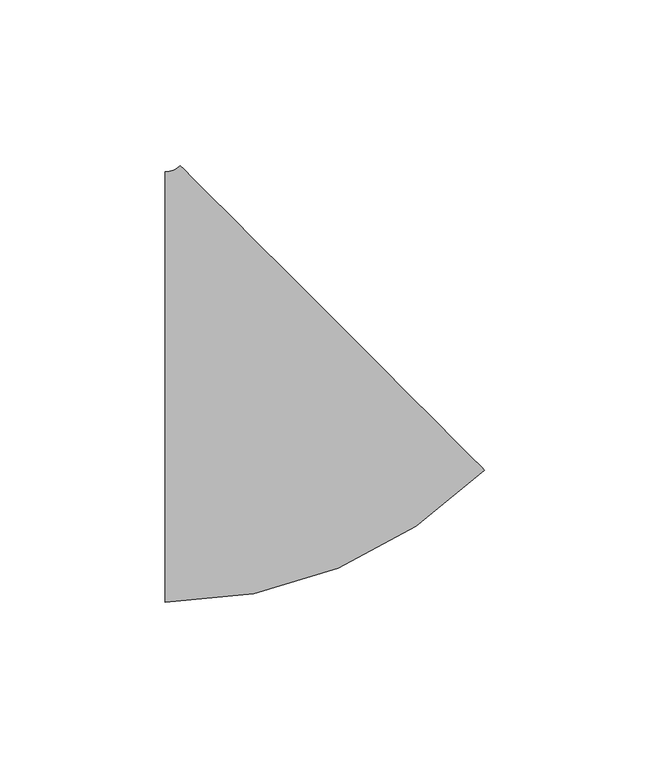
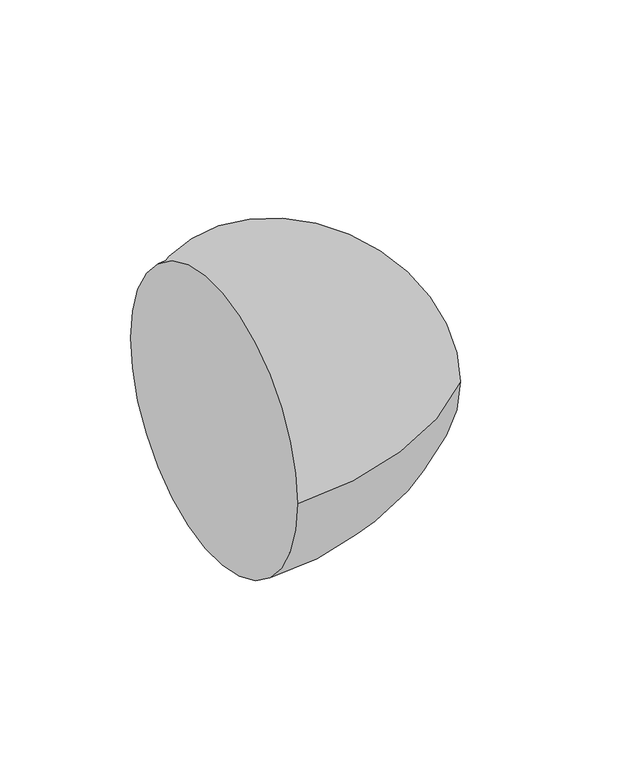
"""IFC4 building model written with IfcOpenShell, lengths in millimetres: pipe fitting geometry, M_Codo - Genérico : Estándar."""

from ifc_helpers import new_model, si_unit, point, frame, origin, place, context, project, spatial, circle_curve, ellipse_curve, trimmed, source, transform, mapped, element, save
from ifc_brep_helpers import plane_surface, revolved_surface, advanced_brep


def pipe_fitting_45596edf(model_context):
    return source(origin(), model_context, "Body", "AdvancedBrep", [
        advanced_brep(
        [(-29.5812327, -65.0875, 0.0), (-29.5812327, 65.0875, 0.0), (66.9354122, -25.121357, 0.0), (-25.0920865, 66.9463904, 0.0)],
        [
            (0, 1, circle_curve(frame((-29.5812327, 0.0, 0.0), z_axis=(-1.0, 0.0, 0.0), x_axis=(0.0, 1.0, 0.0)), 65.0875)),
            (1, 0, circle_curve(frame((-29.5812327, 0.0, 0.0), z_axis=(-1.0, 0.0, 0.0), x_axis=(0.0, 1.0, 0.0)), 65.0875)),
            (2, 3, circle_curve(frame((20.9216629, 20.9125167, 0.0), z_axis=(0.7072613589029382, 0.7069521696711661, 0.0), x_axis=(-0.7069521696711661, 0.7072613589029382, 0.0)), 65.0875)),
            (3, 2, circle_curve(frame((20.9216629, 20.9125167, 0.0), z_axis=(0.7072613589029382, 0.7069521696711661, 0.0), x_axis=(-0.7069521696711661, 0.7072613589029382, 0.0)), 65.0875)),
            (3, 1, circle_curve(frame((-29.5812327, 71.4375, 0.0), z_axis=(0.0, 0.0, -1.0), x_axis=(0.0, -1.0, 0.0)), 6.35)),
            (0, 2, circle_curve(frame((-29.5812327, 71.4375, 0.0), z_axis=(0.0, 0.0, 1.0), x_axis=(0.0, -1.0, 0.0)), 136.525)),
        ],
        [
            plane_surface(frame((-29.5812327, 0.0, 0.0), z_axis=(-1.0, 0.0, 0.0), x_axis=(0.0, 0.0, 1.0))),
            plane_surface(frame((20.9216629, 20.9125167, 0.0), z_axis=(0.7072613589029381, 0.7069521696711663, 0.0), x_axis=(0.0, 0.0, 1.0))),
            revolved_surface(trimmed(ellipse_curve(frame((-29.5812327, 0.0, 0.0), z_axis=(-1.0, 0.0, 0.0), x_axis=(0.0, 1.0, 0.0)), 65.0875, 65.0875), [point((-29.5812327, -65.0875, 0.0))], [point((-29.5812327, 65.0875, 0.0))], True, "CARTESIAN"), (-29.5812327, 71.4375, 0.0), (0.0, 0.0, 1.0)),
            revolved_surface(trimmed(ellipse_curve(frame((-29.5812327, 0.0, 0.0), z_axis=(-1.0, 0.0, 0.0), x_axis=(0.0, 1.0, 0.0)), 65.0875, 65.0875), [point((-29.5812327, 65.0875, 0.0))], [point((-29.5812327, -65.0875, 0.0))], True, "CARTESIAN"), (-29.5812327, 71.4375, 0.0), (0.0, 0.0, 1.0)),
        ],
        [
            (0, [[1, 2]]),
            (1, [[3, 4]]),
            (2, [[5, -1, 6, -4]]),
            (3, [[-6, -2, -5, -3]]),
        ],
    ),
    ])


if __name__ == "__main__":
    model = new_model("IFC4")
    model_context = context("Model", 3, world=origin())
    ifc_project = project(units=[si_unit("LENGTHUNIT", "METRE", prefix="MILLI")], contexts=[model_context])
    site = spatial("IfcSite", under=ifc_project)
    building = spatial("IfcBuilding", under=site)
    placement = place(None, origin())
    pipe_fitting_shape = pipe_fitting_45596edf(model_context)
    element("IfcPipeFitting", 1, ObjectType="M_Codo - Genérico : Estándar", at=placement, inside=building, context=model_context, shape_type="MappedRepresentation", body=[
        mapped(pipe_fitting_shape, transform((0.0, 0.0, 0.0), x_axis=(1.0, 0.0, 0.0), y_axis=(0.0, 1.0, 0.0), z_axis=(0.0, 0.0, 1.0))),
    ])
    save(model, "model.ifc")
